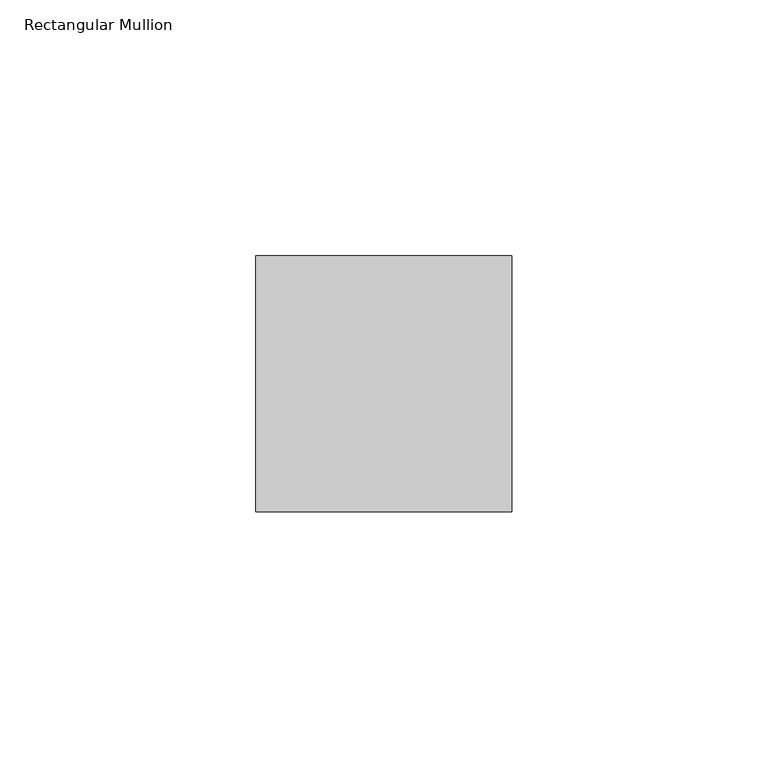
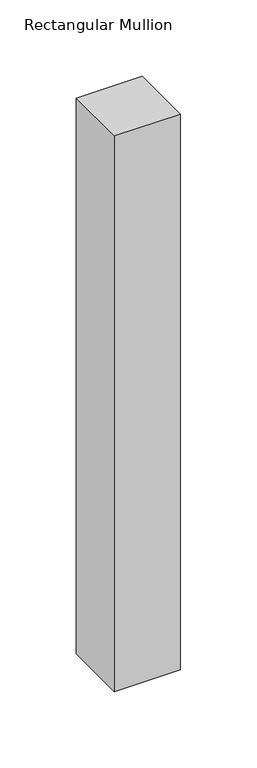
"""IFC4 building model written with IfcOpenShell, lengths in millimetres: member geometry, Rectangular Mullion : RSen_21_CWM_support profile 50x50 - right_gen_duco projects."""

from ifc_helpers import new_model, si_unit, frame, origin, place, context, project, spatial, polyline, outline, extrude, source, transform, mapped, element, save


def rectangular_mullion_4e96f492(model_context):
    return source(origin(), model_context, "Body", "SweptSolid", [
        extrude(outline(polyline([(-50.0, 1.0), (0.0, 1.0), (0.0, -49.0), (-50.0, -49.0), (-50.0, 1.0)])), frame((0.0, 0.0, -445.0), z_axis=(0.0, 0.0, 1.0), x_axis=(1.0, 0.0, 0.0)), (0.0, 0.0, 1.0), 445.0),
    ])


if __name__ == "__main__":
    model = new_model("IFC4")
    model_context = context("Model", 3, world=origin())
    ifc_project = project(units=[si_unit("LENGTHUNIT", "METRE", prefix="MILLI")], contexts=[model_context])
    site = spatial("IfcSite", under=ifc_project)
    building = spatial("IfcBuilding", under=site)
    placement = place(None, origin())
    rectangular_mullion_shape = rectangular_mullion_4e96f492(model_context)
    element("IfcMember", 1, ObjectType="Rectangular Mullion : RSen_21_CWM_support profile 50x50 - right_gen_duco projects", at=placement, inside=building, context=model_context, shape_type="MappedRepresentation", body=[
        mapped(rectangular_mullion_shape, transform((0.0, 0.0, 0.0), x_axis=(1.0, 0.0, 0.0), y_axis=(0.0, 1.0, 0.0), z_axis=(0.0, 0.0, 1.0))),
    ])
    save(model, "model.ifc")
